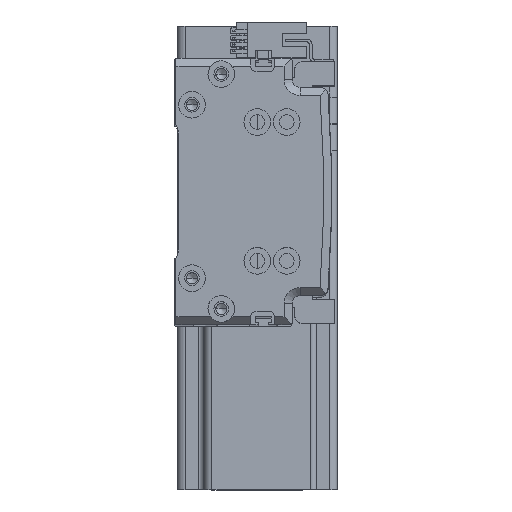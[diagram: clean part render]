
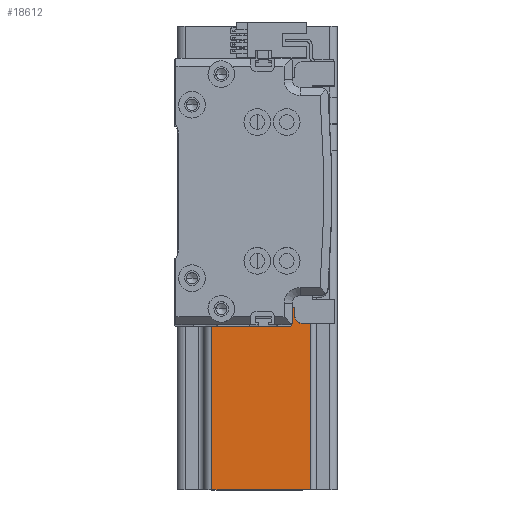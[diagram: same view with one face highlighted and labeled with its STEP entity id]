
A CAD part, top view. The second image highlights one B-rep face of the part: STEP entity #18612.
In plain terms, the highlighted planar face has unit normal (0, 0, 1) as drawn and (-1, 0, 0) by its records, which use the part's own axes.
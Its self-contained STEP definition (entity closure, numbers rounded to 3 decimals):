
#142 = EDGE_CURVE ( 'NONE', #34862, #331, #25534, .T. ) ;
#331 = VERTEX_POINT ( 'NONE', #37271 ) ;
#3883 = ORIENTED_EDGE ( 'NONE', *, *, #13079, .T. ) ;
#4705 = ORIENTED_EDGE ( 'NONE', *, *, #12483, .T. ) ;
#5702 = ORIENTED_EDGE ( 'NONE', *, *, #40382, .F. ) ;
#6381 = LINE ( 'NONE', #25466, #39581 ) ;
#6719 = CARTESIAN_POINT ( 'NONE',  ( -30., -17., 10. ) ) ;
#7806 = DIRECTION ( 'NONE',  ( 0., -1., 0. ) ) ;
#8314 = VERTEX_POINT ( 'NONE', #38702 ) ;
#9607 = LINE ( 'NONE', #44817, #29196 ) ;
#9673 = EDGE_CURVE ( 'NONE', #331, #22974, #14962, .T. ) ;
#9677 = VECTOR ( 'NONE', #26387, 1000. ) ;
#9919 = PLANE ( 'NONE',  #26322 ) ;
#10082 = CARTESIAN_POINT ( 'NONE',  ( -30., -30., 137. ) ) ;
#10588 = LINE ( 'NONE', #25255, #30624 ) ;
#11170 = ORIENTED_EDGE ( 'NONE', *, *, #13241, .F. ) ;
#11496 = CARTESIAN_POINT ( 'NONE',  ( -30., -30., 10. ) ) ;
#12483 = EDGE_CURVE ( 'NONE', #20277, #31917, #6381, .T. ) ;
#12716 = CARTESIAN_POINT ( 'NONE',  ( -30., -27., 137. ) ) ;
#13079 = EDGE_CURVE ( 'NONE', #35632, #33619, #27465, .T. ) ;
#13241 = EDGE_CURVE ( 'NONE', #34862, #8314, #9607, .T. ) ;
#13530 = DIRECTION ( 'NONE',  ( 0., 0., -1. ) ) ;
#13594 = DIRECTION ( 'NONE',  ( 0., 0., -1. ) ) ;
#14189 = LINE ( 'NONE', #39875, #19557 ) ;
#14962 = LINE ( 'NONE', #34455, #18718 ) ;
#16183 = DIRECTION ( 'NONE',  ( 0., 0., 1. ) ) ;
#18612 = ADVANCED_FACE ( 'NONE', ( #25856 ), #9919, .F. ) ;
#18718 = VECTOR ( 'NONE', #13530, 1000. ) ;
#19557 = VECTOR ( 'NONE', #29562, 1000. ) ;
#19788 = ORIENTED_EDGE ( 'NONE', *, *, #43110, .T. ) ;
#20277 = VERTEX_POINT ( 'NONE', #6719 ) ;
#21538 = VECTOR ( 'NONE', #16183, 1000. ) ;
#22974 = VERTEX_POINT ( 'NONE', #29717 ) ;
#24177 = DIRECTION ( 'NONE',  ( 0., 0., 1. ) ) ;
#25255 = CARTESIAN_POINT ( 'NONE',  ( -30., -30., 137. ) ) ;
#25387 = ORIENTED_EDGE ( 'NONE', *, *, #39902, .F. ) ;
#25466 = CARTESIAN_POINT ( 'NONE',  ( -30., -17., 137. ) ) ;
#25495 = VECTOR ( 'NONE', #35960, 1000. ) ;
#25534 = LINE ( 'NONE', #39401, #9677 ) ;
#25856 = FACE_OUTER_BOUND ( 'NONE', #40651, .T. ) ;
#26322 = AXIS2_PLACEMENT_3D ( 'NONE', #10082, #34512, #13594 ) ;
#26387 = DIRECTION ( 'NONE',  ( 0., 1., 0. ) ) ;
#27220 = ORIENTED_EDGE ( 'NONE', *, *, #142, .T. ) ;
#27358 = LINE ( 'NONE', #11496, #25495 ) ;
#27465 = LINE ( 'NONE', #12716, #21538 ) ;
#27921 = CARTESIAN_POINT ( 'NONE',  ( -30., 20., 10. ) ) ;
#28333 = CARTESIAN_POINT ( 'NONE',  ( -30., -27., 0. ) ) ;
#28955 = DIRECTION ( 'NONE',  ( 0., 0., 1. ) ) ;
#29196 = VECTOR ( 'NONE', #24177, 1000. ) ;
#29562 = DIRECTION ( 'NONE',  ( 0., -1., 0. ) ) ;
#29717 = CARTESIAN_POINT ( 'NONE',  ( -30., 27., 0. ) ) ;
#30382 = ORIENTED_EDGE ( 'NONE', *, *, #9673, .T. ) ;
#30624 = VECTOR ( 'NONE', #7806, 1000. ) ;
#31917 = VERTEX_POINT ( 'NONE', #40893 ) ;
#33256 = CARTESIAN_POINT ( 'NONE',  ( -30., -27., 10. ) ) ;
#33619 = VERTEX_POINT ( 'NONE', #33256 ) ;
#34455 = CARTESIAN_POINT ( 'NONE',  ( -30., 27., 137. ) ) ;
#34512 = DIRECTION ( 'NONE',  ( 1., 0., 0. ) ) ;
#34862 = VERTEX_POINT ( 'NONE', #27921 ) ;
#35632 = VERTEX_POINT ( 'NONE', #28333 ) ;
#35960 = DIRECTION ( 'NONE',  ( 0., -1., 0. ) ) ;
#37271 = CARTESIAN_POINT ( 'NONE',  ( -30., 27., 10. ) ) ;
#38702 = CARTESIAN_POINT ( 'NONE',  ( -30., 20., 137. ) ) ;
#39401 = CARTESIAN_POINT ( 'NONE',  ( -30., 30., 10. ) ) ;
#39581 = VECTOR ( 'NONE', #28955, 1000. ) ;
#39875 = CARTESIAN_POINT ( 'NONE',  ( -30., -30., 0. ) ) ;
#39902 = EDGE_CURVE ( 'NONE', #20277, #33619, #27358, .T. ) ;
#40382 = EDGE_CURVE ( 'NONE', #8314, #31917, #10588, .T. ) ;
#40651 = EDGE_LOOP ( 'NONE', ( #25387, #4705, #5702, #11170, #27220, #30382, #19788, #3883 ) ) ;
#40893 = CARTESIAN_POINT ( 'NONE',  ( -30., -17., 137. ) ) ;
#43110 = EDGE_CURVE ( 'NONE', #22974, #35632, #14189, .T. ) ;
#44817 = CARTESIAN_POINT ( 'NONE',  ( -30., 20., 10. ) ) ;
